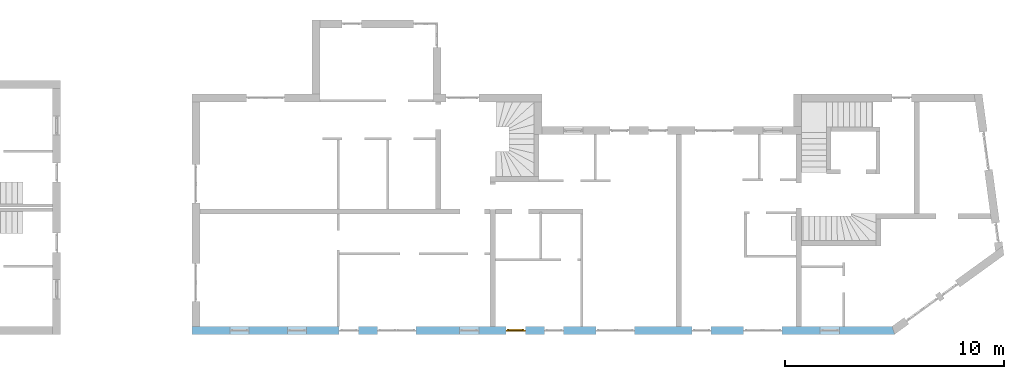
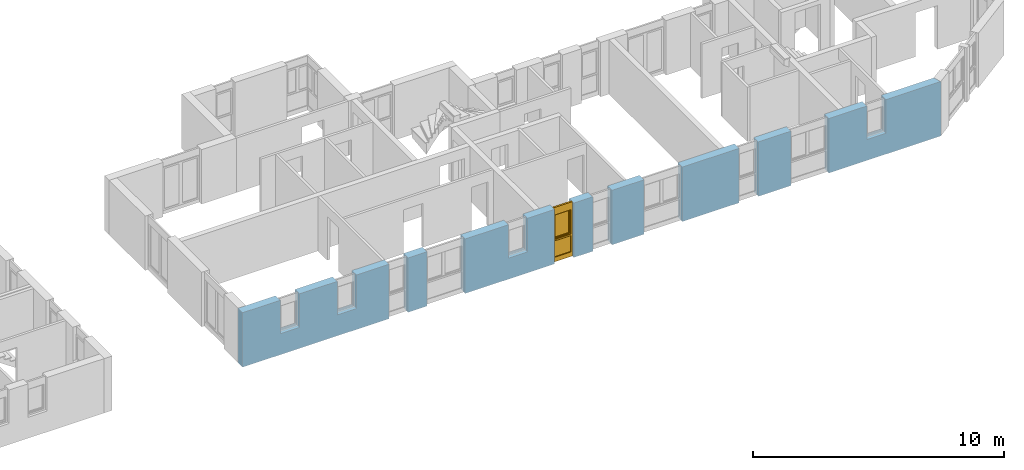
# One storey, part 24 of 42: 1 window, 11 openings, plus 1 element that does not belong to this part.
"""IFC2X3 building model written with IfcOpenShell, lengths in millimetres."""

from ifc_helpers import new_model, entity, si_unit, converted_unit, frame, frame_2d, origin, origin_with_axes, place, context, subcontext, project, spatial, polyline, rectangle, outline, extrude, faceted_brep, material, layer, layer_set, layer_usage, type_object, element, fill, save


model = new_model("IFC2X3")

# Units and contexts
model_context = context("Model", 3, precision=1e-05, world=origin())
body_context = subcontext(model_context, "Body", "Model", "MODEL_VIEW")
ifc_project = project(units=[si_unit("LENGTHUNIT", "METRE", prefix="MILLI"), converted_unit("PLANEANGLEUNIT", "DEGREE", entity("IfcPlaneAngleMeasure", 0.0174532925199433), si_unit("PLANEANGLEUNIT", "RADIAN"), dimensions=[0, 0, 0, 0, 0, 0, 0]), si_unit("AREAUNIT", "SQUARE_METRE"), si_unit("VOLUMEUNIT", "CUBIC_METRE")], contexts=[model_context])

# Building, storey
building_placement = place(None, origin())
building = spatial("IfcBuilding", under=ifc_project, at=building_placement, Name="Gebäude", CompositionType="ELEMENT")
storey_placement = place(building_placement, frame((0.0, 0.0, 2730.0), z_axis=(0.0, 0.0, 1.0), x_axis=(1.0, 0.0, 0.0)))
storey = spatial("IfcBuildingStorey", under=building, at=storey_placement, Name="OG.- Grundriss", CompositionType="ELEMENT", Elevation=2730.0)

# Wall, openings, window
ifc_material_1 = material(Name="Poroton")
ifc_layer = layer(ifc_material_1, 365.0000000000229)
ifc_layer_set = layer_set([ifc_layer])
ifc_layer_usage = layer_usage(ifc_layer_set, "AXIS2", "POSITIVE", 0.0)
wall_placement = place(storey_placement, frame((148357.7928067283, 125274.8877324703, 0.0), z_axis=(0.0, 0.0, 1.0), x_axis=(1.0, -2.749268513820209e-11, 0.0)))
wall = element("IfcWallStandardCase", 1, at=wall_placement, inside=storey, material=ifc_layer_usage, Name="<Unnamed Element>", context=body_context, shape_type="SweptSolid", body=[
    extrude(outline(polyline([(0.0, 0.0), (32144.99999877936, 0.0), (32026.74038666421, 365.0000000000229), (-1.003483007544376e-08, 365.0), (0.0, 0.0)])), origin_with_axes(), (0.0, 0.0, 1.0), 2650.0),
])
opening_1_placement = place(wall_placement, frame((22865.29648749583, -9.393166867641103e-11, 0.0), z_axis=(0.0, 1.0, 0.0), x_axis=(0.0, 0.0, 1.0)))
element("IfcOpeningElement", 2, at=opening_1_placement, cuts=wall, Name="Fensteröffnung", ObjectType="Opening", context=body_context, shape_type="SweptSolid", body=[
    extrude(rectangle(XDim=2650.0, YDim=885.0, at=frame_2d((1325.0, 442.5), x_axis=(1.0, 0.0))), origin_with_axes(), (0.0, 0.0, 1.0), 365.0000000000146),
])
opening_2_placement = place(wall_placement, frame((25240.29648749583, -1.030266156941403e-10, 0.0), z_axis=(0.0, 1.0, 0.0), x_axis=(0.0, 0.0, 1.0)))
element("IfcOpeningElement", 3, at=opening_2_placement, cuts=wall, Name="Fensteröffnung", ObjectType="Opening", context=body_context, shape_type="SweptSolid", body=[
    extrude(rectangle(XDim=2650.0, YDim=1760.0, at=frame_2d((1325.0, 880.0), x_axis=(1.0, 0.0))), origin_with_axes(), (0.0, 0.0, 1.0), 365.0000000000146),
])
opening_3_placement = place(wall_placement, frame((14365.26291869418, -5.847463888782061e-11, 0.0), z_axis=(0.0, 1.0, 0.0), x_axis=(0.0, 0.0, 1.0)))
opening_3 = element("IfcOpeningElement", 4, at=opening_3_placement, cuts=wall, Name="Fensteröffnung", ObjectType="Opening", context=body_context, shape_type="SweptSolid", body=[
    extrude(rectangle(XDim=2650.0, YDim=885.0, at=frame_2d((1325.0, 442.5), x_axis=(1.0, 0.0))), origin_with_axes(), (0.0, 0.0, 1.0), 365.0000000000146),
])
opening_4_placement = place(wall_placement, frame((16123.92212975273, -7.146586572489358e-11, 0.0), z_axis=(0.0, 1.0, 0.0), x_axis=(0.0, 0.0, 1.0)))
element("IfcOpeningElement", 5, at=opening_4_placement, cuts=wall, Name="Fensteröffnung", ObjectType="Opening", context=body_context, shape_type="SweptSolid", body=[
    extrude(rectangle(XDim=2650.0, YDim=885.0, at=frame_2d((1325.0, 442.5), x_axis=(1.0, 0.0))), origin_with_axes(), (0.0, 0.0, 1.0), 365.0000000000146),
])
opening_5_placement = place(wall_placement, frame((6739.999999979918, -3.114109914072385e-11, 0.0), z_axis=(0.0, 1.0, 0.0), x_axis=(0.0, 0.0, 1.0)))
element("IfcOpeningElement", 6, at=opening_5_placement, cuts=wall, Name="Fensteröffnung", ObjectType="Opening", context=body_context, shape_type="SweptSolid", body=[
    extrude(rectangle(XDim=2650.0, YDim=885.0, at=frame_2d((1325.0, 442.5), x_axis=(1.0, 0.0))), origin_with_axes(), (0.0, 0.0, 1.0), 365.0000000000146),
])
opening_6_placement = place(wall_placement, frame((8489.999999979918, -3.477907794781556e-11, 0.0), z_axis=(0.0, 1.0, 0.0), x_axis=(0.0, 0.0, 1.0)))
element("IfcOpeningElement", 7, at=opening_6_placement, cuts=wall, Name="Fensteröffnung", ObjectType="Opening", context=body_context, shape_type="SweptSolid", body=[
    extrude(rectangle(XDim=2650.0, YDim=1760.0, at=frame_2d((1325.0, 880.0), x_axis=(1.0, 0.0))), origin_with_axes(), (0.0, 0.0, 1.0), 365.0000000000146),
])
opening_7_placement = place(wall_placement, frame((1740.0, -3.114109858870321e-11, 1020.0), z_axis=(0.0, 1.0, 0.0), x_axis=(0.0, 0.0, 1.0)))
element("IfcOpeningElement", 8, at=opening_7_placement, cuts=wall, Name="Fensteröffnung", ObjectType="Opening", context=body_context, shape_type="SweptSolid", body=[
    extrude(rectangle(XDim=1630.0, YDim=885.0, at=frame_2d((815.0, 442.5), x_axis=(1.0, 0.0))), origin_with_axes(), (0.0, 0.0, 1.0), 365.0000000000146),
])
opening_8_placement = place(wall_placement, frame((4365.0, -7.494236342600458e-12, 1020.0), z_axis=(0.0, 1.0, 0.0), x_axis=(0.0, 0.0, 1.0)))
element("IfcOpeningElement", 9, at=opening_8_placement, cuts=wall, Name="Fensteröffnung", ObjectType="Opening", context=body_context, shape_type="SweptSolid", body=[
    extrude(rectangle(XDim=1630.0, YDim=885.0, at=frame_2d((815.0, 442.5), x_axis=(1.0, 0.0))), origin_with_axes(), (0.0, 0.0, 1.0), 365.0000000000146),
])
opening_9_placement = place(wall_placement, frame((12240.0, -5.296897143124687e-11, 1020.0), z_axis=(0.0, 1.0, 0.0), x_axis=(0.0, 0.0, 1.0)))
element("IfcOpeningElement", 10, at=opening_9_placement, cuts=wall, Name="Fensteröffnung", ObjectType="Opening", context=body_context, shape_type="SweptSolid", body=[
    extrude(rectangle(XDim=1630.0, YDim=885.0, at=frame_2d((815.0, 442.5), x_axis=(1.0, 0.0))), origin_with_axes(), (0.0, 0.0, 1.0), 365.0000000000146),
])
opening_10_placement = place(wall_placement, frame((18490.51063065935, -4.984640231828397e-11, 0.0), z_axis=(0.0, 1.0, 0.0), x_axis=(0.0, 0.0, 1.0)))
element("IfcOpeningElement", 11, at=opening_10_placement, cuts=wall, Name="Fensteröffnung", ObjectType="Opening", context=body_context, shape_type="SweptSolid", body=[
    extrude(rectangle(XDim=2650.0, YDim=1760.0, at=frame_2d((1325.0, 880.0), x_axis=(1.0, 0.0))), origin_with_axes(), (0.0, 0.0, 1.0), 365.0000000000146),
])
opening_11_placement = place(wall_placement, frame((28740.29648749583, -1.103025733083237e-10, 1020.0), z_axis=(0.0, 1.0, 0.0), x_axis=(0.0, 0.0, 1.0)))
element("IfcOpeningElement", 12, at=opening_11_placement, cuts=wall, Name="Fensteröffnung", ObjectType="Opening", context=body_context, shape_type="SweptSolid", body=[
    extrude(rectangle(XDim=1630.0, YDim=885.0, at=frame_2d((815.0, 442.5), x_axis=(1.0, 0.0))), origin_with_axes(), (0.0, 0.0, 1.0), 365.0000000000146),
])
ifc_material_2 = material()
window_style = type_object("IfcWindowStyle", Name="Fenster", ConstructionType="NOTDEFINED", OperationType="USERDEFINED", ParameterTakesPrecedence=False, Sizeable=False)
window_placement = place(opening_3_placement, frame((0.0, 0.0, 0.0), z_axis=(1.0, 0.0, 0.0), x_axis=(0.0, 1.0, 0.0)))
window = element("IfcWindow", 13, at=window_placement, inside=storey, type_object=window_style, material=ifc_material_2, Name="Fenster", OverallHeight=2650.0, OverallWidth=885.0, context=body_context, shape_type="Brep", body=[
    faceted_brep([(885.0000000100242, 200.0000000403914, 2650.0), (815.0000000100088, 200.0000000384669, 2650.0), (815.0000000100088, 200.0000000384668, -2.449293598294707e-15), (885.0000000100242, 200.0000000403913, -2.449293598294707e-15), (885.0000000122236, 120.0000000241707, 2.449293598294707e-15), (815.0000000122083, 120.0000000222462, 2.449293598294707e-15), (815.0000000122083, 120.0000000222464, 2650.0), (885.0000000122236, 120.0000000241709, 2650.0), (885.0000000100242, 200.0000000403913, -2.449293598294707e-15), (885.0000000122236, 120.0000000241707, 2.449293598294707e-15), (885.0000000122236, 120.0000000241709, 2650.0), (885.0000000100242, 200.0000000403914, 2650.0), (815.0000000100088, 200.0000000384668, -2.449293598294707e-15), (815.0000000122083, 120.0000000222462, 2.449293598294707e-15), (885.0000000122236, 120.0000000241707, 2.449293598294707e-15), (885.0000000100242, 200.0000000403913, -2.449293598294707e-15), (815.0000000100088, 200.0000000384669, 2650.0), (815.0000000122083, 120.0000000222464, 2650.0), (815.0000000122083, 120.0000000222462, 2.449293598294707e-15), (815.0000000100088, 200.0000000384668, -2.449293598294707e-15), (885.0000000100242, 200.0000000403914, 2650.0), (885.0000000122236, 120.0000000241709, 2650.0), (815.0000000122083, 120.0000000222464, 2650.0), (815.0000000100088, 200.0000000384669, 2650.0)], [[[0, 1, 2, 3]], [[4, 5, 6, 7]], [[8, 9, 10, 11]], [[12, 13, 14, 15]], [[16, 17, 18, 19]], [[20, 21, 22, 23]]], orient=[[False], [False], [False], [False], [False], [False]]),
    faceted_brep([(69.99999999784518, 200.0000000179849, 2650.0), (-2.170168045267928e-09, 200.0000000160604, 2650.0), (-2.170168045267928e-09, 200.0000000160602, -2.449293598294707e-15), (69.99999999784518, 200.0000000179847, -2.449293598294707e-15), (70.00000000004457, 120.0000000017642, 2.449293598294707e-15), (2.921751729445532e-11, 119.9999999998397, 2.449293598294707e-15), (2.921751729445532e-11, 119.9999999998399, 2650.0), (70.00000000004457, 120.0000000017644, 2650.0), (69.99999999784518, 200.0000000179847, -2.449293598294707e-15), (70.00000000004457, 120.0000000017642, 2.449293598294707e-15), (70.00000000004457, 120.0000000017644, 2650.0), (69.99999999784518, 200.0000000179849, 2650.0), (-2.170168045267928e-09, 200.0000000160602, -2.449293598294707e-15), (2.921751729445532e-11, 119.9999999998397, 2.449293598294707e-15), (70.00000000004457, 120.0000000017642, 2.449293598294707e-15), (69.99999999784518, 200.0000000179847, -2.449293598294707e-15), (-2.170168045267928e-09, 200.0000000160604, 2650.0), (2.921751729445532e-11, 119.9999999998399, 2650.0), (2.921751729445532e-11, 119.9999999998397, 2.449293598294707e-15), (-2.170168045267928e-09, 200.0000000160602, -2.449293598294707e-15), (69.99999999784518, 200.0000000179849, 2650.0), (70.00000000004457, 120.0000000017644, 2650.0), (2.921751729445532e-11, 119.9999999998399, 2650.0), (-2.170168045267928e-09, 200.0000000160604, 2650.0)], [[[0, 1, 2, 3]], [[4, 5, 6, 7]], [[8, 9, 10, 11]], [[12, 13, 14, 15]], [[16, 17, 18, 19]], [[20, 21, 22, 23]]], orient=[[False], [False], [False], [False], [False], [False]]),
    faceted_brep([(815.0000000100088, 200.0000000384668, 220.0), (69.99999999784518, 200.0000000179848, 220.0), (69.99999999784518, 200.0000000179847, -2.449293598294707e-15), (815.0000000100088, 200.0000000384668, -2.449293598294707e-15), (815.0000000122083, 120.0000000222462, 2.449293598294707e-15), (70.00000000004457, 120.0000000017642, 2.449293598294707e-15), (70.00000000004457, 120.0000000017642, 220.0), (815.0000000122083, 120.0000000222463, 220.0), (815.0000000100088, 200.0000000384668, -2.449293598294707e-15), (815.0000000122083, 120.0000000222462, 2.449293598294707e-15), (815.0000000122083, 120.0000000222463, 220.0), (815.0000000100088, 200.0000000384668, 220.0), (69.99999999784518, 200.0000000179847, -2.449293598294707e-15), (70.00000000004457, 120.0000000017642, 2.449293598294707e-15), (815.0000000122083, 120.0000000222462, 2.449293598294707e-15), (815.0000000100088, 200.0000000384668, -2.449293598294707e-15), (69.99999999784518, 200.0000000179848, 220.0), (70.00000000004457, 120.0000000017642, 220.0), (70.00000000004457, 120.0000000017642, 2.449293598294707e-15), (69.99999999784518, 200.0000000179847, -2.449293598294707e-15), (815.0000000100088, 200.0000000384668, 220.0), (815.0000000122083, 120.0000000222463, 220.0), (70.00000000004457, 120.0000000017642, 220.0), (69.99999999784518, 200.0000000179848, 220.0)], [[[0, 1, 2, 3]], [[4, 5, 6, 7]], [[8, 9, 10, 11]], [[12, 13, 14, 15]], [[16, 17, 18, 19]], [[20, 21, 22, 23]]], orient=[[False], [False], [False], [False], [False], [False]]),
    faceted_brep([(815.0000000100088, 200.0000000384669, 2650.0), (69.99999999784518, 200.0000000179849, 2650.0), (69.99999999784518, 200.0000000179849, 2280.0), (815.0000000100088, 200.0000000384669, 2280.0), (815.0000000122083, 120.0000000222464, 2280.0), (70.00000000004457, 120.0000000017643, 2280.0), (70.00000000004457, 120.0000000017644, 2650.0), (815.0000000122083, 120.0000000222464, 2650.0), (815.0000000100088, 200.0000000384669, 2280.0), (815.0000000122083, 120.0000000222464, 2280.0), (815.0000000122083, 120.0000000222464, 2650.0), (815.0000000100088, 200.0000000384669, 2650.0), (69.99999999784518, 200.0000000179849, 2280.0), (70.00000000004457, 120.0000000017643, 2280.0), (815.0000000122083, 120.0000000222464, 2280.0), (815.0000000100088, 200.0000000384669, 2280.0), (69.99999999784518, 200.0000000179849, 2650.0), (70.00000000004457, 120.0000000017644, 2650.0), (70.00000000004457, 120.0000000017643, 2280.0), (69.99999999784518, 200.0000000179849, 2280.0), (815.0000000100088, 200.0000000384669, 2650.0), (815.0000000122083, 120.0000000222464, 2650.0), (70.00000000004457, 120.0000000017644, 2650.0), (69.99999999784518, 200.0000000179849, 2650.0)], [[[0, 1, 2, 3]], [[4, 5, 6, 7]], [[8, 9, 10, 11]], [[12, 13, 14, 15]], [[16, 17, 18, 19]], [[20, 21, 22, 23]]], orient=[[False], [False], [False], [False], [False], [False]]),
    faceted_brep([(815.0000000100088, 200.0000000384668, 1090.0), (69.99999999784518, 200.0000000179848, 1090.0), (69.99999999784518, 200.0000000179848, 1020.0), (815.0000000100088, 200.0000000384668, 1020.0), (815.0000000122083, 120.0000000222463, 1020.0), (70.00000000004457, 120.0000000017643, 1020.0), (70.00000000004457, 120.0000000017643, 1090.0), (815.0000000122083, 120.0000000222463, 1090.0), (815.0000000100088, 200.0000000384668, 1020.0), (815.0000000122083, 120.0000000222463, 1020.0), (815.0000000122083, 120.0000000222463, 1090.0), (815.0000000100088, 200.0000000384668, 1090.0), (69.99999999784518, 200.0000000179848, 1020.0), (70.00000000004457, 120.0000000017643, 1020.0), (815.0000000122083, 120.0000000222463, 1020.0), (815.0000000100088, 200.0000000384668, 1020.0), (69.99999999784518, 200.0000000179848, 1090.0), (70.00000000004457, 120.0000000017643, 1090.0), (70.00000000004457, 120.0000000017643, 1020.0), (69.99999999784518, 200.0000000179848, 1020.0), (815.0000000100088, 200.0000000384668, 1090.0), (815.0000000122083, 120.0000000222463, 1090.0), (70.00000000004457, 120.0000000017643, 1090.0), (69.99999999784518, 200.0000000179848, 1090.0)], [[[0, 1, 2, 3]], [[4, 5, 6, 7]], [[8, 9, 10, 11]], [[12, 13, 14, 15]], [[16, 17, 18, 19]], [[20, 21, 22, 23]]], orient=[[False], [False], [False], [False], [False], [False]]),
    faceted_brep([(815.0000000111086, 160.0000000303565, 220.0), (815.0000000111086, 160.0000000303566, 1020.0), (69.99999999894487, 160.0000000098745, 1020.0), (69.99999999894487, 160.0000000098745, 220.0), (815.0000000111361, 159.0000000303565, 220.0), (69.99999999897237, 159.0000000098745, 220.0), (69.99999999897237, 159.0000000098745, 1020.0), (815.0000000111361, 159.0000000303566, 1020.0), (815.0000000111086, 160.0000000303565, 220.0), (815.0000000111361, 159.0000000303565, 220.0), (815.0000000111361, 159.0000000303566, 1020.0), (815.0000000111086, 160.0000000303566, 1020.0), (815.0000000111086, 160.0000000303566, 1020.0), (815.0000000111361, 159.0000000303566, 1020.0), (69.99999999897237, 159.0000000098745, 1020.0), (69.99999999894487, 160.0000000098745, 1020.0), (69.99999999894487, 160.0000000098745, 1020.0), (69.99999999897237, 159.0000000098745, 1020.0), (69.99999999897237, 159.0000000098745, 220.0), (69.99999999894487, 160.0000000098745, 220.0), (69.99999999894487, 160.0000000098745, 220.0), (69.99999999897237, 159.0000000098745, 220.0), (815.0000000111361, 159.0000000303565, 220.0), (815.0000000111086, 160.0000000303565, 220.0)], [[[0, 1, 2, 3]], [[4, 5, 6, 7]], [[8, 9, 10, 11]], [[12, 13, 14, 15]], [[16, 17, 18, 19]], [[20, 21, 22, 23]]], orient=[[False], [False], [False], [False], [False], [False]]),
    faceted_brep([(835.0000000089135, 240.000000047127, 2300.0), (765.0000000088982, 240.0000000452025, 2300.0), (765.0000000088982, 240.0000000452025, 1070.0), (835.0000000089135, 240.000000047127, 1070.0), (835.000000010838, 170.000000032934, 1070.0), (765.0000000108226, 170.0000000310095, 1070.0), (765.0000000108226, 170.0000000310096, 2300.0), (835.000000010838, 170.0000000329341, 2300.0), (835.0000000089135, 240.000000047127, 1070.0), (835.000000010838, 170.000000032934, 1070.0), (835.000000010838, 170.0000000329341, 2300.0), (835.0000000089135, 240.000000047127, 2300.0), (765.0000000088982, 240.0000000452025, 1070.0), (765.0000000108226, 170.0000000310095, 1070.0), (835.000000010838, 170.000000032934, 1070.0), (835.0000000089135, 240.000000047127, 1070.0), (765.0000000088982, 240.0000000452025, 2300.0), (765.0000000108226, 170.0000000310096, 2300.0), (765.0000000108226, 170.0000000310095, 1070.0), (765.0000000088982, 240.0000000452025, 1070.0), (835.0000000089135, 240.000000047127, 2300.0), (835.000000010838, 170.0000000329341, 2300.0), (765.0000000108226, 170.0000000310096, 2300.0), (765.0000000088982, 240.0000000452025, 2300.0)], [[[0, 1, 2, 3]], [[4, 5, 6, 7]], [[8, 9, 10, 11]], [[12, 13, 14, 15]], [[16, 17, 18, 19]], [[20, 21, 22, 23]]], orient=[[False], [False], [False], [False], [False], [False]]),
    faceted_brep([(119.9999999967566, 240.0000000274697, 2300.0), (49.99999999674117, 240.0000000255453, 2300.0), (49.99999999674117, 240.0000000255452, 1070.0), (119.9999999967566, 240.0000000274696, 1070.0), (119.9999999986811, 170.0000000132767, 1070.0), (49.99999999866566, 170.0000000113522, 1070.0), (49.99999999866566, 170.0000000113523, 2300.0), (119.9999999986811, 170.0000000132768, 2300.0), (119.9999999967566, 240.0000000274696, 1070.0), (119.9999999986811, 170.0000000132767, 1070.0), (119.9999999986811, 170.0000000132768, 2300.0), (119.9999999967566, 240.0000000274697, 2300.0), (49.99999999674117, 240.0000000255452, 1070.0), (49.99999999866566, 170.0000000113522, 1070.0), (119.9999999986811, 170.0000000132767, 1070.0), (119.9999999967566, 240.0000000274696, 1070.0), (49.99999999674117, 240.0000000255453, 2300.0), (49.99999999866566, 170.0000000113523, 2300.0), (49.99999999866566, 170.0000000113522, 1070.0), (49.99999999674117, 240.0000000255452, 1070.0), (119.9999999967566, 240.0000000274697, 2300.0), (119.9999999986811, 170.0000000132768, 2300.0), (49.99999999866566, 170.0000000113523, 2300.0), (49.99999999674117, 240.0000000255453, 2300.0)], [[[0, 1, 2, 3]], [[4, 5, 6, 7]], [[8, 9, 10, 11]], [[12, 13, 14, 15]], [[16, 17, 18, 19]], [[20, 21, 22, 23]]], orient=[[False], [False], [False], [False], [False], [False]]),
    faceted_brep([(765.0000000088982, 240.0000000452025, 1140.0), (119.9999999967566, 240.0000000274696, 1140.0), (119.9999999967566, 240.0000000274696, 1070.0), (765.0000000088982, 240.0000000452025, 1070.0), (765.0000000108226, 170.0000000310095, 1070.0), (119.9999999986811, 170.0000000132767, 1070.0), (119.9999999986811, 170.0000000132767, 1140.0), (765.0000000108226, 170.0000000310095, 1140.0), (765.0000000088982, 240.0000000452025, 1070.0), (765.0000000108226, 170.0000000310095, 1070.0), (765.0000000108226, 170.0000000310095, 1140.0), (765.0000000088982, 240.0000000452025, 1140.0), (119.9999999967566, 240.0000000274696, 1070.0), (119.9999999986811, 170.0000000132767, 1070.0), (765.0000000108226, 170.0000000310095, 1070.0), (765.0000000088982, 240.0000000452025, 1070.0), (119.9999999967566, 240.0000000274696, 1140.0), (119.9999999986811, 170.0000000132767, 1140.0), (119.9999999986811, 170.0000000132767, 1070.0), (119.9999999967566, 240.0000000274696, 1070.0), (765.0000000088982, 240.0000000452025, 1140.0), (765.0000000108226, 170.0000000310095, 1140.0), (119.9999999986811, 170.0000000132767, 1140.0), (119.9999999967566, 240.0000000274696, 1140.0)], [[[0, 1, 2, 3]], [[4, 5, 6, 7]], [[8, 9, 10, 11]], [[12, 13, 14, 15]], [[16, 17, 18, 19]], [[20, 21, 22, 23]]], orient=[[False], [False], [False], [False], [False], [False]]),
    faceted_brep([(765.0000000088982, 240.0000000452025, 2300.0), (119.9999999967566, 240.0000000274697, 2300.0), (119.9999999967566, 240.0000000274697, 2230.0), (765.0000000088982, 240.0000000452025, 2230.0), (765.0000000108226, 170.0000000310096, 2230.0), (119.9999999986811, 170.0000000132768, 2230.0), (119.9999999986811, 170.0000000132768, 2300.0), (765.0000000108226, 170.0000000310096, 2300.0), (765.0000000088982, 240.0000000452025, 2230.0), (765.0000000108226, 170.0000000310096, 2230.0), (765.0000000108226, 170.0000000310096, 2300.0), (765.0000000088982, 240.0000000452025, 2300.0), (119.9999999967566, 240.0000000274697, 2230.0), (119.9999999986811, 170.0000000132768, 2230.0), (765.0000000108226, 170.0000000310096, 2230.0), (765.0000000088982, 240.0000000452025, 2230.0), (119.9999999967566, 240.0000000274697, 2300.0), (119.9999999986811, 170.0000000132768, 2300.0), (119.9999999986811, 170.0000000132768, 2230.0), (119.9999999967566, 240.0000000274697, 2230.0), (765.0000000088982, 240.0000000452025, 2300.0), (765.0000000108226, 170.0000000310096, 2300.0), (119.9999999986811, 170.0000000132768, 2300.0), (119.9999999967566, 240.0000000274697, 2300.0)], [[[0, 1, 2, 3]], [[4, 5, 6, 7]], [[8, 9, 10, 11]], [[12, 13, 14, 15]], [[16, 17, 18, 19]], [[20, 21, 22, 23]]], orient=[[False], [False], [False], [False], [False], [False]]),
    faceted_brep([(765.0000000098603, 205.000000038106, 1140.0), (765.0000000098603, 205.0000000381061, 2230.0), (119.9999999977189, 205.0000000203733, 2230.0), (119.9999999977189, 205.0000000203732, 1140.0), (765.0000000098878, 204.000000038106, 1140.0), (119.9999999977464, 204.0000000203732, 1140.0), (119.9999999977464, 204.0000000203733, 2230.0), (765.0000000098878, 204.0000000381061, 2230.0), (765.0000000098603, 205.000000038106, 1140.0), (765.0000000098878, 204.000000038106, 1140.0), (765.0000000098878, 204.0000000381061, 2230.0), (765.0000000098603, 205.0000000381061, 2230.0), (765.0000000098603, 205.0000000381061, 2230.0), (765.0000000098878, 204.0000000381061, 2230.0), (119.9999999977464, 204.0000000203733, 2230.0), (119.9999999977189, 205.0000000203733, 2230.0), (119.9999999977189, 205.0000000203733, 2230.0), (119.9999999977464, 204.0000000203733, 2230.0), (119.9999999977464, 204.0000000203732, 1140.0), (119.9999999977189, 205.0000000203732, 1140.0), (119.9999999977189, 205.0000000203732, 1140.0), (119.9999999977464, 204.0000000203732, 1140.0), (765.0000000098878, 204.000000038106, 1140.0), (765.0000000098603, 205.000000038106, 1140.0)], [[[0, 1, 2, 3]], [[4, 5, 6, 7]], [[8, 9, 10, 11]], [[12, 13, 14, 15]], [[16, 17, 18, 19]], [[20, 21, 22, 23]]], orient=[[False], [False], [False], [False], [False], [False]]),
])
fill(opening_3, window)

save(model, "model.ifc")
